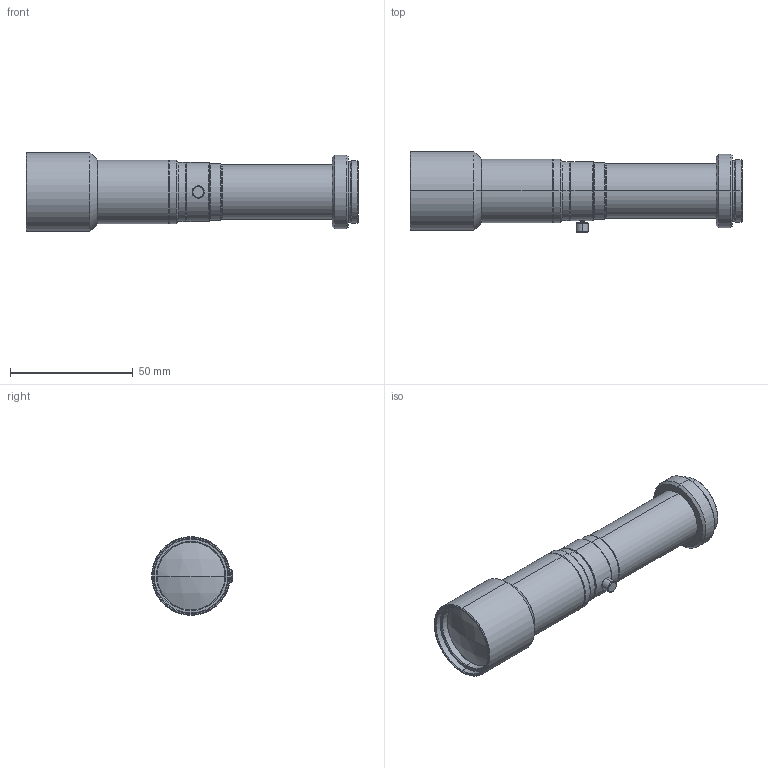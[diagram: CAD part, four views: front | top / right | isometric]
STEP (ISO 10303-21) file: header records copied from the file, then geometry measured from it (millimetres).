
FILE_DESCRIPTION (( 'STEP AP203' ), '1' );
FILE_NAME ('VS-THV1-110_S.STEP', '2015-06-18T07:35:51', ( 'miura_vst' ), ( '' ), 'SwSTEP 2.0', 'SolidWorks 2015', '' );
FILE_SCHEMA (( 'CONFIG_CONTROL_DESIGN' ));
Length unit declared in the file: millimetre
Products named in the file (1): VS-THV1-110_S
Bounding box: 135 x 32.8 x 32 mm (x, y, z)
Volume: 53992.3 mm3; surface area: 17291.7 mm2
Topology: 1 solids, 1 shells, 139 faces, 280 edges, 160 vertices
Faces by surface type: cone 68, cylinder 50, plane 17, sphere 4
Entity records: 3699 total; most frequent: DIRECTION 718, CARTESIAN_POINT 612, ORIENTED_EDGE 560, AXIS2_PLACEMENT_3D 300, EDGE_CURVE 280, CIRCLE 160, VERTEX_POINT 160, EDGE_LOOP 156
